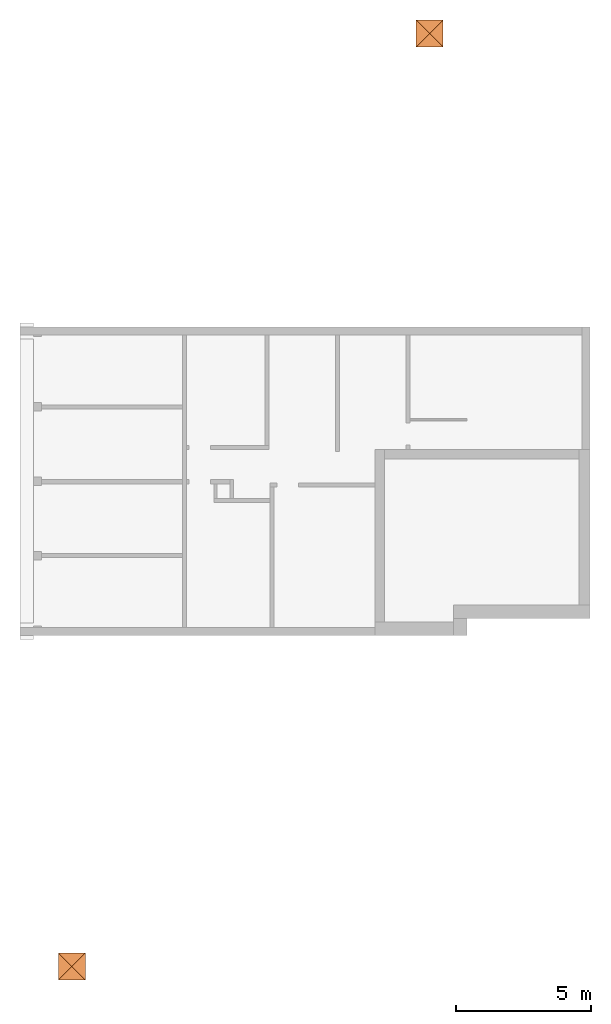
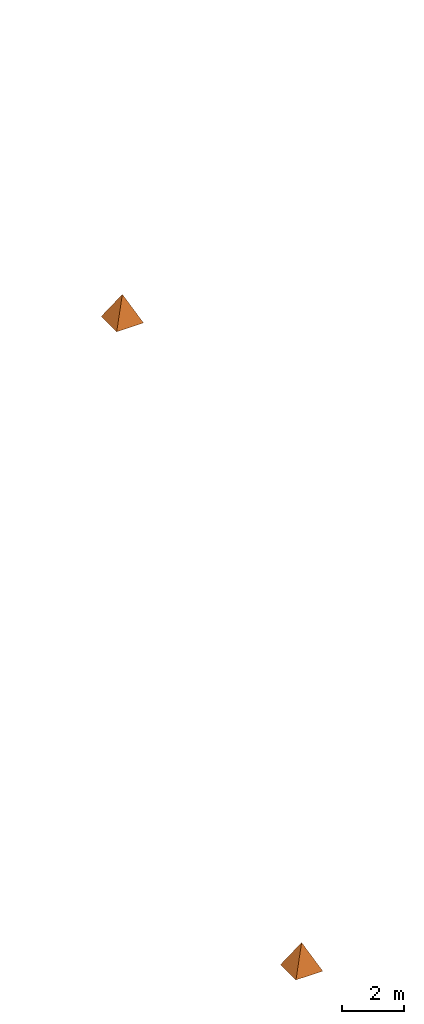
# One storey, part 2 of 2: 2 proxies.
"""IFC2X3 building model written with IfcOpenShell, lengths in metres."""

from ifc_helpers import new_model, entity, si_unit, converted_unit, derived_unit, direction, frame, origin, place, context, subcontext, project, spatial, faceted_brep, element, save


model = new_model("IFC2X3")

# Units and contexts
model_context = context("Model", 3, precision=1e-05, world=origin(), true_north=direction((0.772621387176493, -0.634867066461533)))
body_context = subcontext(model_context, "Body", "Model", "MODEL_VIEW")
ifc_project = project(units=[si_unit("LENGTHUNIT", "METRE"), si_unit("AREAUNIT", "SQUARE_METRE"), si_unit("VOLUMEUNIT", "CUBIC_METRE"), si_unit("MASSUNIT", "GRAM", prefix="KILO"), converted_unit("PLANEANGLEUNIT", "DEGREE", entity("IfcPlaneAngleMeasure", 0.0174532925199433), si_unit("PLANEANGLEUNIT", "RADIAN"), dimensions=[0, 0, 0, 0, 0, 0, 0]), derived_unit("THERMALTRANSMITTANCEUNIT", [(si_unit("POWERUNIT", "WATT"), 1), (si_unit("THERMODYNAMICTEMPERATUREUNIT", "KELVIN"), -1), (si_unit("LENGTHUNIT", "METRE"), -2)]), derived_unit("VOLUMETRICFLOWRATEUNIT", [(si_unit("LENGTHUNIT", "METRE"), 3), (converted_unit("TIMEUNIT", "hour", entity("IfcTimeMeasure", 3600.0), si_unit("TIMEUNIT", "SECOND"), dimensions=[0, 0, 1, 0, 0, 0, 0]), -1), (si_unit("LENGTHUNIT", "METRE"), -1)])], contexts=[model_context])

# Site, building, storey
site_placement = place(None, origin())
site = spatial("IfcSite", under=ifc_project, at=site_placement, Name="Modelle auf dem Nullpunkt", CompositionType="ELEMENT")
building_placement = place(site_placement, origin())
building = spatial("IfcBuilding", under=site, at=building_placement, Name="H", CompositionType="ELEMENT")
storey_placement = place(building_placement, origin())
storey = spatial("IfcBuildingStorey", under=building, at=storey_placement, Name="UG", CompositionType="ELEMENT", Elevation=0.0)

# Proxies
proxy_1_placement = place(storey_placement, frame((41.1839167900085, 12.8743803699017, -1.0)))
element("IfcBuildingElementProxy", 1, at=proxy_1_placement, inside=storey, Name="Kontrollpunkt", context=body_context, shape_type="Brep", body=[
    faceted_brep([(0.000353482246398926, 1.00035341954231, 0.0), (0.0, 0.000353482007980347, 0.0), (0.999999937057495, 0.0, 0.0), (1.00035341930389, 0.999999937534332, 0.0), (0.500176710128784, 0.500176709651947, 1.0)], [[[0, 1, 2, 3]], [[4, 0, 3]], [[4, 3, 2]], [[4, 2, 1]], [[4, 1, 0]]], orient=[[False], [False], [False], [False], [False]]),
])
proxy_2_placement = place(storey_placement, frame((27.9488232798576, -21.6277543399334, -1.0)))
element("IfcBuildingElementProxy", 2, at=proxy_2_placement, inside=storey, Name="Kontrollpunkt", context=body_context, shape_type="Brep", body=[
    faceted_brep([(0.000353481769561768, 1.00035341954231, 0.0), (0.0, 0.000353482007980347, 0.0), (0.999999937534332, 0.0, 0.0), (1.00035341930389, 0.999999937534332, 0.0), (0.50017670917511, 0.500176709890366, 1.0)], [[[0, 1, 2, 3]], [[4, 0, 3]], [[4, 3, 2]], [[4, 2, 1]], [[4, 1, 0]]], orient=[[False], [False], [False], [False], [False]]),
])

save(model, "model.ifc")
